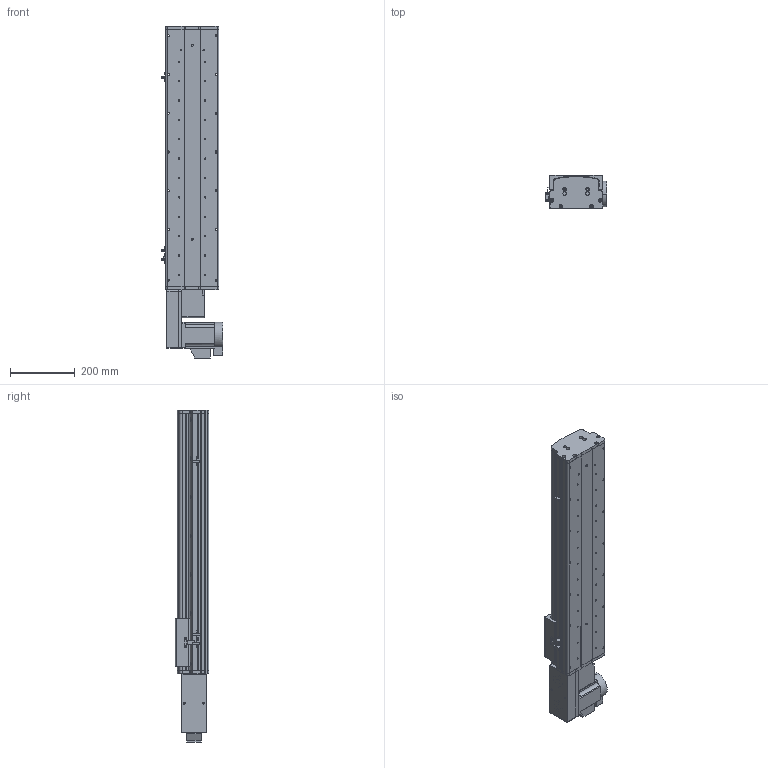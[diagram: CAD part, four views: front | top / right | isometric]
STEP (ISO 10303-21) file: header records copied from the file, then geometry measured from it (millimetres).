
FILE_DESCRIPTION (( 'STEP AP214' ), '1' );
FILE_NAME ('KSD165B-S550-MLB-CM.STEP', '2017-10-16T06:04:42', ( '微软用户' ), ( '微软中国' ), 'SwSTEP 2.0', 'SolidWorks 2014', '' );
FILE_SCHEMA (( 'AUTOMOTIVE_DESIGN' ));
Length unit declared in the file: millimetre
Products named in the file (17): HTPA26S5M250-A-H8 750W萇儂蚚; HTPA26S5M250-A-H8 400W萇儂蚚 ; 130宽模组马达安装板连板左右折同步带; 130宽模组保护罩上下左右折-同步带; 165宽马达安装板同步带左-改; KSD165模组-同步带防尘盖1-550行程-最新版; KSD165模组同步带底板-550行程-最新; 拸秶雄ん750W侜督萇儂; U倰嫖萇假蚾璃; U倰嫖萇EEㄜSX672; 覜茼え68遵圉猾敕; KSD165模组-同步带-防撞垫2; KSD165模组同步带-防撞垫1; KSD165耀郪-ヶ傷啣1-肮祭湍; KSD165模组-后端板1-同步带; KSD165模组-同步带滑动座-最新版; KSD165B-S550-MLB-CM
Assembly tree (20 placements, depth 2):
  KSD165B-S550-MLB-CM
    KSD165模组-同步带滑动座-最新版
    KSD165模组-后端板1-同步带
    KSD165耀郪-ヶ傷啣1-肮祭湍
    KSD165模组同步带-防撞垫1
    KSD165模组-同步带-防撞垫2
    覜茼え68遵圉猾敕
    U倰嫖萇EEㄜSX672  x3
    U倰嫖萇假蚾璃  x3
    拸秶雄ん750W侜督萇儂
    KSD165模组同步带底板-550行程-最新
    KSD165模组-同步带防尘盖1-550行程-最新版
    165宽马达安装板同步带左-改
    130宽模组保护罩上下左右折-同步带
    130宽模组马达安装板连板左右折同步带
    HTPA26S5M250-A-H8 400W萇儂蚚 
    HTPA26S5M250-A-H8 750W萇儂蚚
Bounding box: 191.2 x 104 x 1028 mm (x, y, z)
Volume: 5886837.7 mm3; surface area: 1363074.9 mm2
Topology: 21 solids, 22 shells, 1907 faces, 5370 edges, 3504 vertices
Faces by surface type: cylinder 1213, plane 582, cone 112
Entity records: 61344 total; most frequent: CARTESIAN_POINT 12570, DIRECTION 10130, ORIENTED_EDGE 9400, EDGE_CURVE 4700, AXIS2_PLACEMENT_3D 3966, VERTEX_POINT 3096, CIRCLE 2256, LINE 2198
